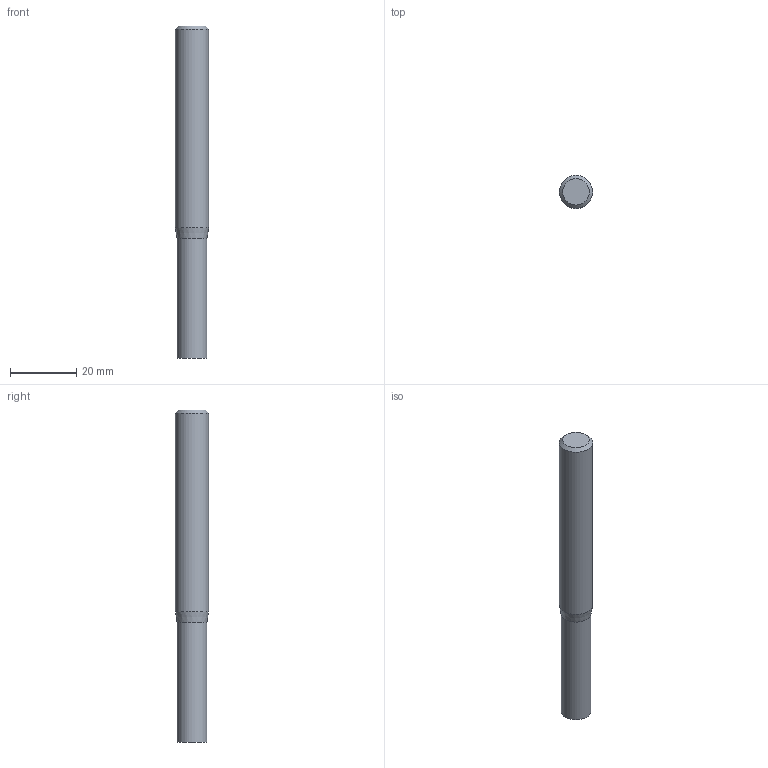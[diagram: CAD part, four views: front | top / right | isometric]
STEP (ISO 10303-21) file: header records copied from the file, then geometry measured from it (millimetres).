
FILE_DESCRIPTION((''),'2;1');
FILE_NAME('C:\Users\nsx150\AppData\Local\Temp\Mastercam 2021\W9Z147XDNF\TEMP.step','2021-04-08T14:48:39',(''),(''),'STEP Write','Mastercam 2021 ... CNC Software, Inc.','');
FILE_SCHEMA(('AUTOMOTIVE_DESIGN'));
Length unit declared in the file: millimetre
Products named in the file (1): None
Bounding box: 10 x 10 x 100 mm (x, y, z)
Volume: 7278.1 mm3; surface area: 3274.4 mm2
Topology: 2 solids, 2 shells, 8 faces, 10 edges, 6 vertices
Faces by surface type: plane 4, cylinder 2, cone 2
Full cylindrical faces by diameter (mm): 9 x1, 10 x1
Entity records: 190 total; most frequent: DIRECTION 32, CARTESIAN_POINT 22, AXIS2_PLACEMENT_3D 16, ORIENTED_EDGE 12, EDGE_LOOP 12, STYLED_ITEM 11, ADVANCED_FACE 8, VERTEX_POINT 6
